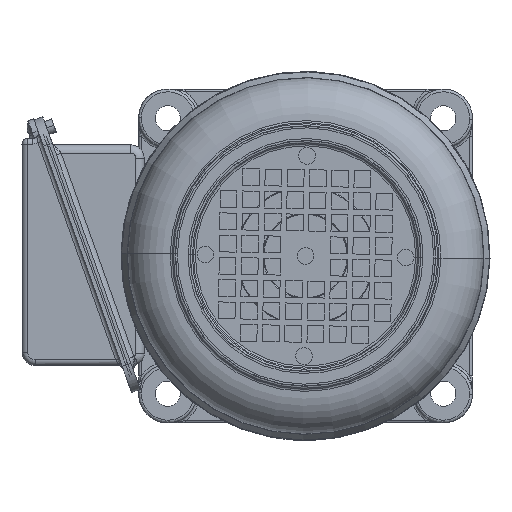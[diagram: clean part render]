
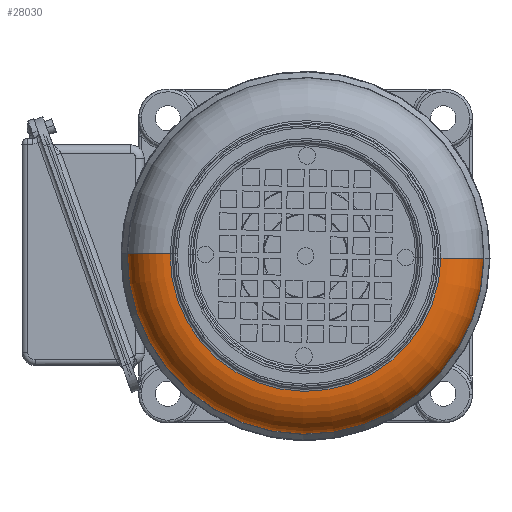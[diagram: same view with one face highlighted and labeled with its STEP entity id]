
A CAD part, front view. The second image highlights one B-rep face of the part: STEP entity #28030.
In plain terms, the highlighted toroidal (fillet/blend) face has major radius 48.673 mm and minor radius 15.331 mm.
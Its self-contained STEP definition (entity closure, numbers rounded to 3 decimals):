
#135 = DIRECTION ( 'NONE',  ( -1., 0., 0. ) ) ;
#3124 = EDGE_CURVE ( 'NONE', #14096, #32753, #23880, .T. ) ;
#4228 = TOROIDAL_SURFACE ( 'NONE', #26146, 48.673, 15.331 ) ;
#4866 = CARTESIAN_POINT ( 'NONE',  ( -15.325, 0., 48.673 ) ) ;
#5287 = ORIENTED_EDGE ( 'NONE', *, *, #3124, .F. ) ;
#6578 = AXIS2_PLACEMENT_3D ( 'NONE', #8138, #20092, #32051 ) ;
#7747 = CARTESIAN_POINT ( 'NONE',  ( 0.006, 0., 48.659 ) ) ;
#7811 = DIRECTION ( 'NONE',  ( 0., 1., 0. ) ) ;
#8138 = CARTESIAN_POINT ( 'NONE',  ( 0.006, 0., 0. ) ) ;
#8283 = ORIENTED_EDGE ( 'NONE', *, *, #22275, .F. ) ;
#8959 = EDGE_LOOP ( 'NONE', ( #8283, #13741, #18258, #5287 ) ) ;
#11460 = DIRECTION ( 'NONE',  ( -1., 0., 0. ) ) ;
#12132 = DIRECTION ( 'NONE',  ( 0., 0., 1. ) ) ;
#12385 = AXIS2_PLACEMENT_3D ( 'NONE', #34669, #7811, #19765 ) ;
#13741 = ORIENTED_EDGE ( 'NONE', *, *, #19514, .T. ) ;
#13837 = AXIS2_PLACEMENT_3D ( 'NONE', #38319, #11460, #23429 ) ;
#13885 = DIRECTION ( 'NONE',  ( 0., -1., 0. ) ) ;
#14096 = VERTEX_POINT ( 'NONE', #15569 ) ;
#15335 = AXIS2_PLACEMENT_3D ( 'NONE', #4866, #13885, #25830 ) ;
#15569 = CARTESIAN_POINT ( 'NONE',  ( -15., 0., -64. ) ) ;
#17606 = VERTEX_POINT ( 'NONE', #26847 ) ;
#18258 = ORIENTED_EDGE ( 'NONE', *, *, #25793, .T. ) ;
#19426 = VERTEX_POINT ( 'NONE', #7747 ) ;
#19514 = EDGE_CURVE ( 'NONE', #17606, #19426, #23493, .T. ) ;
#19765 = DIRECTION ( 'NONE',  ( 0., 0., 1. ) ) ;
#20092 = DIRECTION ( 'NONE',  ( -1., 0., 0. ) ) ;
#22275 = EDGE_CURVE ( 'NONE', #17606, #14096, #29277, .T. ) ;
#23429 = DIRECTION ( 'NONE',  ( 0., 0., 1. ) ) ;
#23493 = CIRCLE ( 'NONE', #6578, 48.659 ) ;
#23880 = CIRCLE ( 'NONE', #13837, 64. ) ;
#25793 = EDGE_CURVE ( 'NONE', #19426, #32753, #32232, .T. ) ;
#25830 = DIRECTION ( 'NONE',  ( 0., 0., -1. ) ) ;
#26146 = AXIS2_PLACEMENT_3D ( 'NONE', #27019, #135, #12132 ) ;
#26847 = CARTESIAN_POINT ( 'NONE',  ( 0.006, 0., -48.659 ) ) ;
#27019 = CARTESIAN_POINT ( 'NONE',  ( -15.325, 0., 0. ) ) ;
#28030 = ADVANCED_FACE ( 'NONE', ( #29974 ), #4228, .T. ) ;
#28908 = CARTESIAN_POINT ( 'NONE',  ( -15., 0., 64. ) ) ;
#29277 = CIRCLE ( 'NONE', #12385, 15.331 ) ;
#29974 = FACE_OUTER_BOUND ( 'NONE', #8959, .T. ) ;
#32051 = DIRECTION ( 'NONE',  ( 0., 0., 1. ) ) ;
#32232 = CIRCLE ( 'NONE', #15335, 15.331 ) ;
#32753 = VERTEX_POINT ( 'NONE', #28908 ) ;
#34669 = CARTESIAN_POINT ( 'NONE',  ( -15.325, 0., -48.673 ) ) ;
#38319 = CARTESIAN_POINT ( 'NONE',  ( -15., 0., 0. ) ) ;
